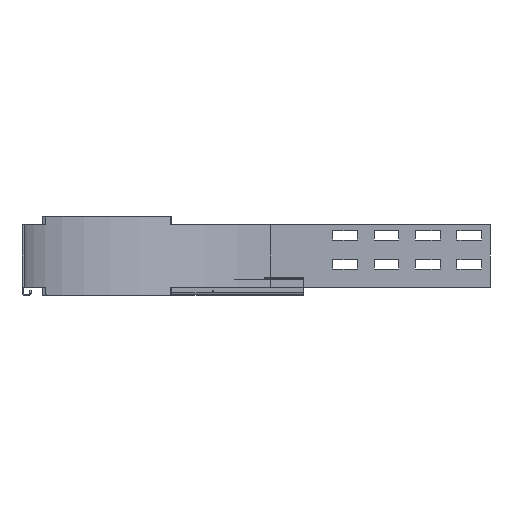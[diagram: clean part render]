
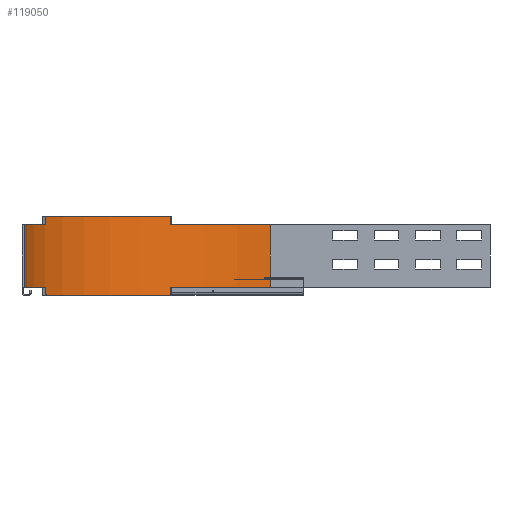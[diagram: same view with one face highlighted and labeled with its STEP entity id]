
A CAD part, left-side view. The second image highlights one B-rep face of the part: STEP entity #119050.
In plain terms, the highlighted cylindrical face has radius 297 mm (diameter 594 mm), a partial arc.
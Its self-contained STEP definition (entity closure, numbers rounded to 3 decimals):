
#96480=CARTESIAN_POINT('',(423.54,-135.435,-50.));
#96490=VERTEX_POINT('',#96480);
#96520=CARTESIAN_POINT('',(247.84,-374.89,-50.));
#96530=DIRECTION('',(0.,0.,1.));
#96540=DIRECTION('',(0.592,0.806,0.));
#96550=AXIS2_PLACEMENT_3D('',#96520,#96530,#96540);
#96560=CIRCLE('',#96550,297.);
#96570=CARTESIAN_POINT('',(214.908,-79.722,-50.));
#96580=VERTEX_POINT('',#96570);
#96590=EDGE_CURVE('',#96490,#96580,#96560,.T.);
#98560=CARTESIAN_POINT('',(504.924,-226.173,-60.));
#98570=VERTEX_POINT('',#98560);
#98620=CARTESIAN_POINT('',(247.84,-374.89,-60.));
#98630=DIRECTION('',(0.,0.,-1.));
#98640=DIRECTION('',(0.592,0.806,0.));
#98650=AXIS2_PLACEMENT_3D('',#98620,#98630,#98640);
#98660=CIRCLE('',#98650,297.);
#98670=CARTESIAN_POINT('',(423.54,-135.435,-60.));
#98680=VERTEX_POINT('',#98670);
#98690=EDGE_CURVE('',#98680,#98570,#98660,.T.);
#99100=CARTESIAN_POINT('',(247.84,-374.89,-145.));
#99110=DIRECTION('',(0.,0.,1.));
#99120=DIRECTION('',(0.592,0.806,0.));
#99130=AXIS2_PLACEMENT_3D('',#99100,#99110,#99120);
#99140=CIRCLE('',#99130,297.);
#99150=CARTESIAN_POINT('',(423.54,-135.435,-145.));
#99160=VERTEX_POINT('',#99150);
#99170=CARTESIAN_POINT('',(214.908,-79.722,-145.));
#99180=VERTEX_POINT('',#99170);
#99190=EDGE_CURVE('',#99160,#99180,#99140,.T.);
#99740=CARTESIAN_POINT('',(99.123,-117.806,-135.));
#99750=VERTEX_POINT('',#99740);
#99780=CARTESIAN_POINT('',(247.84,-374.89,-135.));
#99790=DIRECTION('',(0.,0.,1.));
#99800=DIRECTION('',(-0.111,0.994,0.));
#99810=AXIS2_PLACEMENT_3D('',#99780,#99790,#99800);
#99820=CIRCLE('',#99810,297.);
#99830=CARTESIAN_POINT('',(214.908,-79.722,-135.));
#99840=VERTEX_POINT('',#99830);
#99850=EDGE_CURVE('',#99840,#99750,#99820,.T.);
#106770=CARTESIAN_POINT('',(99.123,-117.806,-60.));
#106780=VERTEX_POINT('',#106770);
#106930=CARTESIAN_POINT('',(214.908,-79.722,-60.));
#106940=VERTEX_POINT('',#106930);
#106970=CARTESIAN_POINT('',(247.84,-374.89,-60.));
#106980=DIRECTION('',(0.,0.,-1.));
#106990=DIRECTION('',(-0.501,0.866,0.));
#107000=AXIS2_PLACEMENT_3D('',#106970,#106980,#106990);
#107010=CIRCLE('',#107000,297.);
#107020=EDGE_CURVE('',#106780,#106940,#107010,.T.);
#109800=CARTESIAN_POINT('',(504.924,-226.173,-135.));
#109810=VERTEX_POINT('',#109800);
#109840=CARTESIAN_POINT('',(504.924,-226.173,0.));
#109850=DIRECTION('',(0.,0.,1.));
#109860=VECTOR('',#109850,1.);
#109870=LINE('',#109840,#109860);
#109880=EDGE_CURVE('',#109810,#98570,#109870,.T.);
#116170=CARTESIAN_POINT('',(423.54,-135.435,-50.));
#116180=DIRECTION('',(0.,0.,-1.));
#116190=VECTOR('',#116180,1.);
#116200=LINE('',#116170,#116190);
#116210=EDGE_CURVE('',#96490,#98680,#116200,.T.);
#116340=CARTESIAN_POINT('',(214.908,-79.722,-135.));
#116350=DIRECTION('',(0.,0.,-1.));
#116360=VECTOR('',#116350,1.);
#116370=LINE('',#116340,#116360);
#116380=EDGE_CURVE('',#99840,#99180,#116370,.T.);
#116510=CARTESIAN_POINT('',(214.908,-79.722,-50.));
#116520=DIRECTION('',(0.,0.,-1.));
#116530=VECTOR('',#116520,1.);
#116540=LINE('',#116510,#116530);
#116550=EDGE_CURVE('',#96580,#106940,#116540,.T.);
#117770=CARTESIAN_POINT('',(99.123,-117.806,0.));
#117780=DIRECTION('',(0.,0.,-1.));
#117790=VECTOR('',#117780,1.);
#117800=LINE('',#117770,#117790);
#117810=EDGE_CURVE('',#106780,#99750,#117800,.T.);
#118730=CARTESIAN_POINT('',(247.84,-374.89,-60.));
#118740=DIRECTION('',(0.,0.,1.));
#118750=DIRECTION('',(1.,0.,0.));
#118760=AXIS2_PLACEMENT_3D('',#118730,#118740,#118750);
#118770=CYLINDRICAL_SURFACE('',#118760,297.);
#118780=ORIENTED_EDGE('',*,*,#99850,.F.);
#118790=ORIENTED_EDGE('',*,*,#117810,.T.);
#118800=ORIENTED_EDGE('',*,*,#107020,.F.);
#118810=ORIENTED_EDGE('',*,*,#116550,.T.);
#118820=ORIENTED_EDGE('',*,*,#96590,.T.);
#118830=ORIENTED_EDGE('',*,*,#116210,.F.);
#118840=ORIENTED_EDGE('',*,*,#98690,.F.);
#118850=ORIENTED_EDGE('',*,*,#109880,.T.);
#118860=CARTESIAN_POINT('',(247.84,-374.89,-135.));
#118870=DIRECTION('',(0.,0.,1.));
#118880=DIRECTION('',(0.866,0.501,0.));
#118890=AXIS2_PLACEMENT_3D('',#118860,#118870,#118880);
#118900=CIRCLE('',#118890,297.);
#118910=CARTESIAN_POINT('',(423.54,-135.435,-135.));
#118920=VERTEX_POINT('',#118910);
#118930=EDGE_CURVE('',#109810,#118920,#118900,.T.);
#118940=ORIENTED_EDGE('',*,*,#118930,.F.);
#118950=CARTESIAN_POINT('',(423.54,-135.435,-135.));
#118960=DIRECTION('',(0.,0.,-1.));
#118970=VECTOR('',#118960,1.);
#118980=LINE('',#118950,#118970);
#118990=EDGE_CURVE('',#118920,#99160,#118980,.T.);
#119000=ORIENTED_EDGE('',*,*,#118990,.F.);
#119010=ORIENTED_EDGE('',*,*,#99190,.F.);
#119020=ORIENTED_EDGE('',*,*,#116380,.T.);
#119030=EDGE_LOOP('',(#119020,#119010,#119000,#118940,#118850,#118840,
#118830,#118820,#118810,#118800,#118790,#118780));
#119040=FACE_OUTER_BOUND('',#119030,.T.);
#119050=ADVANCED_FACE('',(#119040),#118770,.F.);
